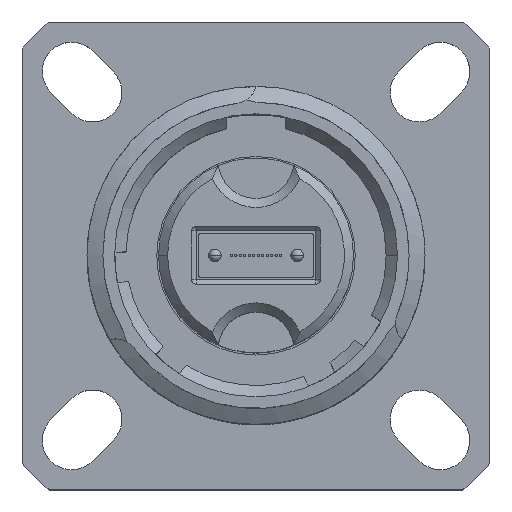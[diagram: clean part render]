
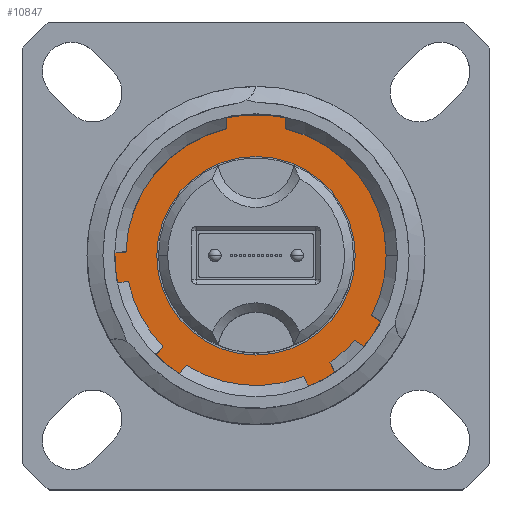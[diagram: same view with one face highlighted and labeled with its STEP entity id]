
A CAD part, top view. The second image highlights one B-rep face of the part: STEP entity #10847.
In plain terms, the highlighted planar face has unit normal (0, 0, 1).
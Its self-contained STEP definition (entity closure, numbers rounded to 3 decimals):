
#33 = DIRECTION ( 'NONE',  ( -1., 0., 0. ) ) ;
#192 = CARTESIAN_POINT ( 'NONE',  ( 0., 0., -14.554 ) ) ;
#894 = CARTESIAN_POINT ( 'NONE',  ( 7.938, 0., -14.554 ) ) ;
#902 = FACE_BOUND ( 'NONE', #6497, .T. ) ;
#959 = CIRCLE ( 'NONE', #7047, 7.938 ) ;
#1898 = EDGE_CURVE ( 'NONE', #10055, #5698, #9461, .T. ) ;
#2124 = CARTESIAN_POINT ( 'NONE',  ( 0., 0., -14.554 ) ) ;
#2566 = DIRECTION ( 'NONE',  ( 0., 0., 1. ) ) ;
#2709 = PLANE ( 'NONE',  #3568 ) ;
#2916 = DIRECTION ( 'NONE',  ( 0., 0., 1. ) ) ;
#3054 = DIRECTION ( 'NONE',  ( 1., 0., 0. ) ) ;
#3389 = CARTESIAN_POINT ( 'NONE',  ( 0., 0., -14.554 ) ) ;
#3568 = AXIS2_PLACEMENT_3D ( 'NONE', #5367, #6349, #33 ) ;
#4485 = CIRCLE ( 'NONE', #8911, 5.55 ) ;
#4656 = DIRECTION ( 'NONE',  ( 1., 0., 0. ) ) ;
#4711 = CARTESIAN_POINT ( 'NONE',  ( -7.938, 0., -14.554 ) ) ;
#5300 = VERTEX_POINT ( 'NONE', #6178 ) ;
#5367 = CARTESIAN_POINT ( 'NONE',  ( 0., 5.55, -14.554 ) ) ;
#5429 = FACE_OUTER_BOUND ( 'NONE', #9481, .T. ) ;
#5551 = ORIENTED_EDGE ( 'NONE', *, *, #5591, .T. ) ;
#5591 = EDGE_CURVE ( 'NONE', #5698, #10055, #959, .T. ) ;
#5655 = DIRECTION ( 'NONE',  ( 0., 0., 1. ) ) ;
#5698 = VERTEX_POINT ( 'NONE', #894 ) ;
#6178 = CARTESIAN_POINT ( 'NONE',  ( -5.55, 0., -14.554 ) ) ;
#6349 = DIRECTION ( 'NONE',  ( 0., 0., -1. ) ) ;
#6497 = EDGE_LOOP ( 'NONE', ( #7399, #8858 ) ) ;
#6906 = DIRECTION ( 'NONE',  ( 1., 0., 0. ) ) ;
#7047 = AXIS2_PLACEMENT_3D ( 'NONE', #2124, #5655, #3054 ) ;
#7280 = DIRECTION ( 'NONE',  ( 0., 0., 1. ) ) ;
#7399 = ORIENTED_EDGE ( 'NONE', *, *, #11043, .F. ) ;
#7436 = AXIS2_PLACEMENT_3D ( 'NONE', #3389, #2566, #6906 ) ;
#8037 = CARTESIAN_POINT ( 'NONE',  ( 0., 0., -14.554 ) ) ;
#8858 = ORIENTED_EDGE ( 'NONE', *, *, #11111, .F. ) ;
#8911 = AXIS2_PLACEMENT_3D ( 'NONE', #192, #2916, #4656 ) ;
#9249 = ORIENTED_EDGE ( 'NONE', *, *, #1898, .T. ) ;
#9388 = VERTEX_POINT ( 'NONE', #11447 ) ;
#9461 = CIRCLE ( 'NONE', #10941, 7.938 ) ;
#9481 = EDGE_LOOP ( 'NONE', ( #5551, #9249 ) ) ;
#9832 = DIRECTION ( 'NONE',  ( 1., 0., 0. ) ) ;
#10055 = VERTEX_POINT ( 'NONE', #4711 ) ;
#10208 = CIRCLE ( 'NONE', #7436, 5.55 ) ;
#10847 = ADVANCED_FACE ( 'NONE', ( #902, #5429 ), #2709, .F. ) ;
#10941 = AXIS2_PLACEMENT_3D ( 'NONE', #8037, #7280, #9832 ) ;
#11043 = EDGE_CURVE ( 'NONE', #9388, #5300, #10208, .T. ) ;
#11111 = EDGE_CURVE ( 'NONE', #5300, #9388, #4485, .T. ) ;
#11447 = CARTESIAN_POINT ( 'NONE',  ( 5.55, 0., -14.554 ) ) ;
